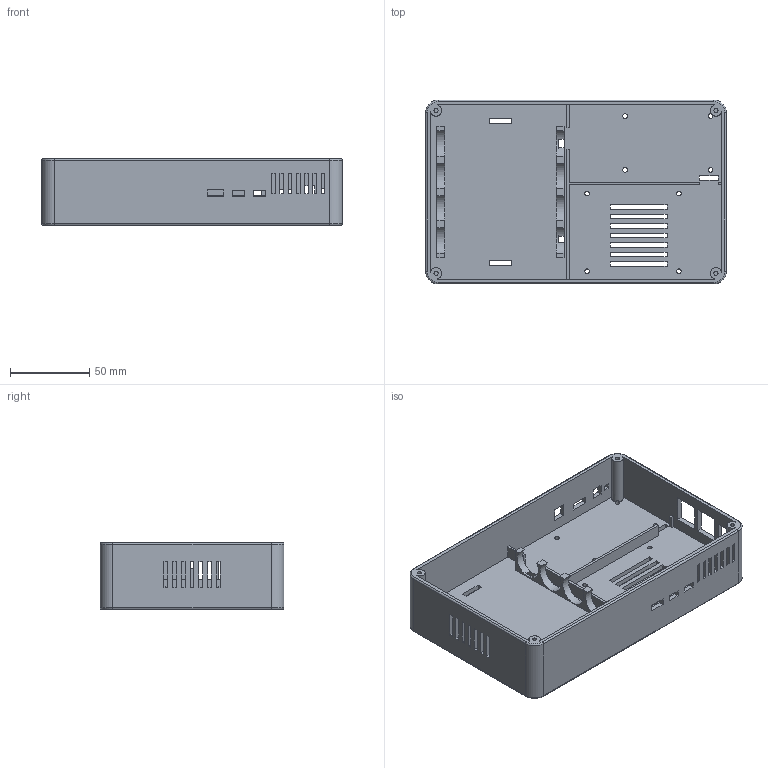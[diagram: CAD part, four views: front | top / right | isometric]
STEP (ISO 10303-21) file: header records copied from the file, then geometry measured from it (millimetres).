
FILE_DESCRIPTION(('Open CASCADE Model'),'2;1');
FILE_NAME('Open CASCADE Shape Model','2026-11-11T15:43:36',('Author'),( 'Open CASCADE'),'Open CASCADE STEP processor 8.0','build123d', 'Unknown');
FILE_SCHEMA(('AUTOMOTIVE_DESIGN { 1 0 10303 214 1 1 1 1 }'));
Length unit declared in the file: millimetre
Products named in the file (1): SOLID
Bounding box: 190 x 116 x 42.1 mm (x, y, z)
Volume: 138127.3 mm3; surface area: 98875.7 mm2
Topology: 1 solids, 1 shells, 279 faces, 797 edges, 526 vertices
Faces by surface type: plane 210, cylinder 61, torus 8
Full cylindrical faces by diameter (mm): 2.6 x8, 2.9 x8
Entity records: 18928 total; most frequent: CARTESIAN_POINT 4223, DIRECTION 2281, ORIENTED_EDGE 1594, PCURVE 1594, DEFINITIONAL_REPRESENTATION 1594, LINE 1349, VECTOR 1349, EDGE_CURVE 797
